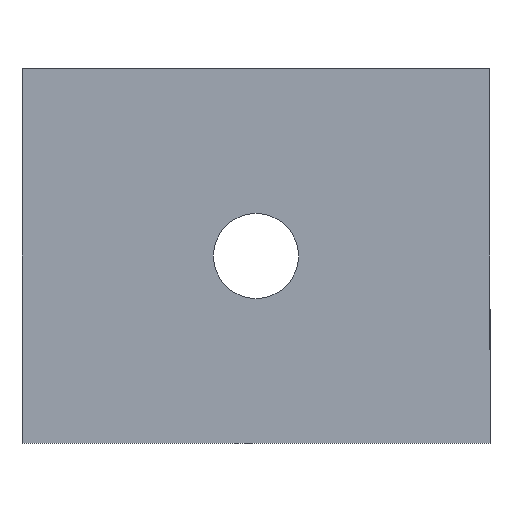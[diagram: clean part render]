
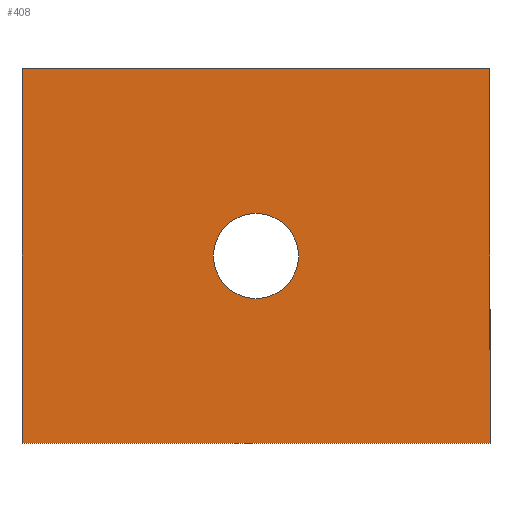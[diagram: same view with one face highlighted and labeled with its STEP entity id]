
A CAD part, left-side view. The second image highlights one B-rep face of the part: STEP entity #408.
In plain terms, the highlighted planar face has unit normal (-1, 0, 0).
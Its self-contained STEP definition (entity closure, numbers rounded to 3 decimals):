
#22 = VERTEX_POINT('',#23);
#23 = CARTESIAN_POINT('',(0.,0.,220.));
#32 = PLANE('',#33);
#33 = AXIS2_PLACEMENT_3D('',#34,#35,#36);
#34 = CARTESIAN_POINT('',(0.,0.,220.));
#35 = DIRECTION('',(0.,0.,1.));
#36 = DIRECTION('',(0.,1.,0.));
#44 = PLANE('',#45);
#45 = AXIS2_PLACEMENT_3D('',#46,#47,#48);
#46 = CARTESIAN_POINT('',(0.,0.,0.));
#47 = DIRECTION('',(0.,-1.,0.));
#48 = DIRECTION('',(0.,0.,1.));
#85 = VERTEX_POINT('',#86);
#86 = CARTESIAN_POINT('',(0.,275.,220.));
#100 = PLANE('',#101);
#101 = AXIS2_PLACEMENT_3D('',#102,#103,#104);
#102 = CARTESIAN_POINT('',(0.,275.,220.));
#103 = DIRECTION('',(0.,1.,0.));
#104 = DIRECTION('',(0.,0.,-1.));
#112 = EDGE_CURVE('',#22,#85,#113,.T.);
#113 = SURFACE_CURVE('',#114,(#118,#125),.PCURVE_S1.);
#114 = LINE('',#115,#116);
#115 = CARTESIAN_POINT('',(0.,0.,220.));
#116 = VECTOR('',#117,1.);
#117 = DIRECTION('',(0.,1.,0.));
#118 = PCURVE('',#32,#119);
#119 = DEFINITIONAL_REPRESENTATION('',(#120),#124);
#120 = LINE('',#121,#122);
#121 = CARTESIAN_POINT('',(0.,0.));
#122 = VECTOR('',#123,1.);
#123 = DIRECTION('',(1.,0.));
#124 = ( GEOMETRIC_REPRESENTATION_CONTEXT(2) 
PARAMETRIC_REPRESENTATION_CONTEXT() REPRESENTATION_CONTEXT('2D SPACE',''
  ) );
#125 = PCURVE('',#126,#131);
#126 = PLANE('',#127);
#127 = AXIS2_PLACEMENT_3D('',#128,#129,#130);
#128 = CARTESIAN_POINT('',(0.,137.5,110.));
#129 = DIRECTION('',(-1.,0.,0.));
#130 = DIRECTION('',(0.,0.,-1.));
#131 = DEFINITIONAL_REPRESENTATION('',(#132),#136);
#132 = LINE('',#133,#134);
#133 = CARTESIAN_POINT('',(-110.,137.5));
#134 = VECTOR('',#135,1.);
#135 = DIRECTION('',(0.,-1.));
#136 = ( GEOMETRIC_REPRESENTATION_CONTEXT(2) 
PARAMETRIC_REPRESENTATION_CONTEXT() REPRESENTATION_CONTEXT('2D SPACE',''
  ) );
#142 = VERTEX_POINT('',#143);
#143 = CARTESIAN_POINT('',(0.,0.,0.));
#159 = PLANE('',#160);
#160 = AXIS2_PLACEMENT_3D('',#161,#162,#163);
#161 = CARTESIAN_POINT('',(0.,275.,0.));
#162 = DIRECTION('',(0.,0.,-1.));
#163 = DIRECTION('',(0.,-1.,0.));
#193 = EDGE_CURVE('',#142,#22,#194,.T.);
#194 = SURFACE_CURVE('',#195,(#199,#206),.PCURVE_S1.);
#195 = LINE('',#196,#197);
#196 = CARTESIAN_POINT('',(0.,0.,0.));
#197 = VECTOR('',#198,1.);
#198 = DIRECTION('',(0.,0.,1.));
#199 = PCURVE('',#44,#200);
#200 = DEFINITIONAL_REPRESENTATION('',(#201),#205);
#201 = LINE('',#202,#203);
#202 = CARTESIAN_POINT('',(0.,0.));
#203 = VECTOR('',#204,1.);
#204 = DIRECTION('',(1.,0.));
#205 = ( GEOMETRIC_REPRESENTATION_CONTEXT(2) 
PARAMETRIC_REPRESENTATION_CONTEXT() REPRESENTATION_CONTEXT('2D SPACE',''
  ) );
#206 = PCURVE('',#126,#207);
#207 = DEFINITIONAL_REPRESENTATION('',(#208),#212);
#208 = LINE('',#209,#210);
#209 = CARTESIAN_POINT('',(110.,137.5));
#210 = VECTOR('',#211,1.);
#211 = DIRECTION('',(-1.,0.));
#212 = ( GEOMETRIC_REPRESENTATION_CONTEXT(2) 
PARAMETRIC_REPRESENTATION_CONTEXT() REPRESENTATION_CONTEXT('2D SPACE',''
  ) );
#304 = VERTEX_POINT('',#305);
#305 = CARTESIAN_POINT('',(0.,275.,0.));
#326 = EDGE_CURVE('',#85,#304,#327,.T.);
#327 = SURFACE_CURVE('',#328,(#332,#339),.PCURVE_S1.);
#328 = LINE('',#329,#330);
#329 = CARTESIAN_POINT('',(0.,275.,220.));
#330 = VECTOR('',#331,1.);
#331 = DIRECTION('',(0.,0.,-1.));
#332 = PCURVE('',#100,#333);
#333 = DEFINITIONAL_REPRESENTATION('',(#334),#338);
#334 = LINE('',#335,#336);
#335 = CARTESIAN_POINT('',(0.,0.));
#336 = VECTOR('',#337,1.);
#337 = DIRECTION('',(1.,0.));
#338 = ( GEOMETRIC_REPRESENTATION_CONTEXT(2) 
PARAMETRIC_REPRESENTATION_CONTEXT() REPRESENTATION_CONTEXT('2D SPACE',''
  ) );
#339 = PCURVE('',#126,#340);
#340 = DEFINITIONAL_REPRESENTATION('',(#341),#345);
#341 = LINE('',#342,#343);
#342 = CARTESIAN_POINT('',(-110.,-137.5));
#343 = VECTOR('',#344,1.);
#344 = DIRECTION('',(1.,0.));
#345 = ( GEOMETRIC_REPRESENTATION_CONTEXT(2) 
PARAMETRIC_REPRESENTATION_CONTEXT() REPRESENTATION_CONTEXT('2D SPACE',''
  ) );
#408 = ADVANCED_FACE('',(#409,#435),#126,.T.);
#409 = FACE_BOUND('',#410,.T.);
#410 = EDGE_LOOP('',(#411,#412,#413,#434));
#411 = ORIENTED_EDGE('',*,*,#112,.T.);
#412 = ORIENTED_EDGE('',*,*,#326,.T.);
#413 = ORIENTED_EDGE('',*,*,#414,.T.);
#414 = EDGE_CURVE('',#304,#142,#415,.T.);
#415 = SURFACE_CURVE('',#416,(#420,#427),.PCURVE_S1.);
#416 = LINE('',#417,#418);
#417 = CARTESIAN_POINT('',(0.,275.,0.));
#418 = VECTOR('',#419,1.);
#419 = DIRECTION('',(0.,-1.,0.));
#420 = PCURVE('',#126,#421);
#421 = DEFINITIONAL_REPRESENTATION('',(#422),#426);
#422 = LINE('',#423,#424);
#423 = CARTESIAN_POINT('',(110.,-137.5));
#424 = VECTOR('',#425,1.);
#425 = DIRECTION('',(0.,1.));
#426 = ( GEOMETRIC_REPRESENTATION_CONTEXT(2) 
PARAMETRIC_REPRESENTATION_CONTEXT() REPRESENTATION_CONTEXT('2D SPACE',''
  ) );
#427 = PCURVE('',#159,#428);
#428 = DEFINITIONAL_REPRESENTATION('',(#429),#433);
#429 = LINE('',#430,#431);
#430 = CARTESIAN_POINT('',(0.,0.));
#431 = VECTOR('',#432,1.);
#432 = DIRECTION('',(1.,0.));
#433 = ( GEOMETRIC_REPRESENTATION_CONTEXT(2) 
PARAMETRIC_REPRESENTATION_CONTEXT() REPRESENTATION_CONTEXT('2D SPACE',''
  ) );
#434 = ORIENTED_EDGE('',*,*,#193,.T.);
#435 = FACE_BOUND('',#436,.T.);
#436 = EDGE_LOOP('',(#437));
#437 = ORIENTED_EDGE('',*,*,#438,.T.);
#438 = EDGE_CURVE('',#439,#439,#441,.T.);
#439 = VERTEX_POINT('',#440);
#440 = CARTESIAN_POINT('',(0.,162.5,110.));
#441 = SURFACE_CURVE('',#442,(#447,#458),.PCURVE_S1.);
#442 = CIRCLE('',#443,25.);
#443 = AXIS2_PLACEMENT_3D('',#444,#445,#446);
#444 = CARTESIAN_POINT('',(0.,137.5,110.));
#445 = DIRECTION('',(1.,0.,0.));
#446 = DIRECTION('',(0.,1.,0.));
#447 = PCURVE('',#126,#448);
#448 = DEFINITIONAL_REPRESENTATION('',(#449),#457);
#449 = ( BOUNDED_CURVE() B_SPLINE_CURVE(2,(#450,#451,#452,#453,#454,#455
,#456),.UNSPECIFIED.,.F.,.F.) B_SPLINE_CURVE_WITH_KNOTS((1,2,2,2,2,1),(
    -2.094,0.,2.094,4.189,6.283,
8.378),.UNSPECIFIED.) CURVE() GEOMETRIC_REPRESENTATION_ITEM() 
RATIONAL_B_SPLINE_CURVE((1.,0.5,1.,0.5,1.,0.5,1.)) REPRESENTATION_ITEM(
  '') );
#450 = CARTESIAN_POINT('',(0.,-25.));
#451 = CARTESIAN_POINT('',(-43.301,-25.));
#452 = CARTESIAN_POINT('',(-21.651,12.5));
#453 = CARTESIAN_POINT('',(0.,50.));
#454 = CARTESIAN_POINT('',(21.651,12.5));
#455 = CARTESIAN_POINT('',(43.301,-25.));
#456 = CARTESIAN_POINT('',(0.,-25.));
#457 = ( GEOMETRIC_REPRESENTATION_CONTEXT(2) 
PARAMETRIC_REPRESENTATION_CONTEXT() REPRESENTATION_CONTEXT('2D SPACE',''
  ) );
#458 = PCURVE('',#459,#464);
#459 = CYLINDRICAL_SURFACE('',#460,25.);
#460 = AXIS2_PLACEMENT_3D('',#461,#462,#463);
#461 = CARTESIAN_POINT('',(0.,137.5,110.));
#462 = DIRECTION('',(-1.,0.,0.));
#463 = DIRECTION('',(0.,1.,0.));
#464 = DEFINITIONAL_REPRESENTATION('',(#465),#469);
#465 = LINE('',#466,#467);
#466 = CARTESIAN_POINT('',(-0.,0.));
#467 = VECTOR('',#468,1.);
#468 = DIRECTION('',(-1.,0.));
#469 = ( GEOMETRIC_REPRESENTATION_CONTEXT(2) 
PARAMETRIC_REPRESENTATION_CONTEXT() REPRESENTATION_CONTEXT('2D SPACE',''
  ) );
